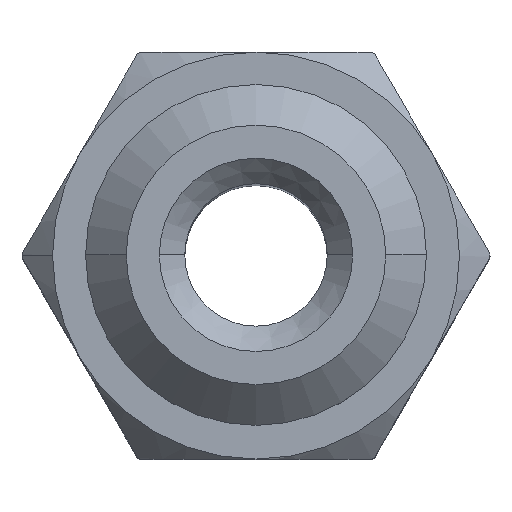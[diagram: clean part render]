
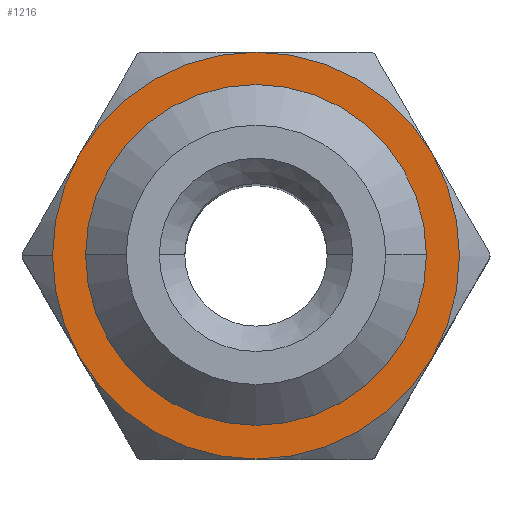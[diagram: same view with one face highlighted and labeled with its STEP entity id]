
A CAD part, top view. The second image highlights one B-rep face of the part: STEP entity #1216.
In plain terms, the highlighted planar face has unit normal (0, 0, 1).
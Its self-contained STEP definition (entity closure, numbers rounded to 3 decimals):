
#8 = DIRECTION ( 'NONE',  ( 0., 0., 1. ) ) ;
#108 = CIRCLE ( 'NONE', #1192, 4. ) ;
#117 = CARTESIAN_POINT ( 'NONE',  ( 0., 0., 14.5 ) ) ;
#205 = VERTEX_POINT ( 'NONE', #1846 ) ;
#271 = EDGE_CURVE ( 'NONE', #205, #1975, #108, .T. ) ;
#302 = CIRCLE ( 'NONE', #1107, 4. ) ;
#363 = AXIS2_PLACEMENT_3D ( 'NONE', #1623, #1672, #1680 ) ;
#377 = ORIENTED_EDGE ( 'NONE', *, *, #888, .T. ) ;
#392 = VERTEX_POINT ( 'NONE', #2509 ) ;
#501 = CIRCLE ( 'NONE', #1161, 2.75 ) ;
#554 = CARTESIAN_POINT ( 'NONE',  ( 0., -4., 14.5 ) ) ;
#582 = CARTESIAN_POINT ( 'NONE',  ( 2.25, 0., 14.5 ) ) ;
#639 = CARTESIAN_POINT ( 'NONE',  ( 0., 4., 14.5 ) ) ;
#700 = AXIS2_PLACEMENT_3D ( 'NONE', #1877, #869, #982 ) ;
#735 = CARTESIAN_POINT ( 'NONE',  ( 3.464, 2., 14.5 ) ) ;
#737 = VERTEX_POINT ( 'NONE', #554 ) ;
#740 = CARTESIAN_POINT ( 'NONE',  ( 0., 0., 14.5 ) ) ;
#746 = DIRECTION ( 'NONE',  ( -1., 0., 0. ) ) ;
#763 = EDGE_LOOP ( 'NONE', ( #1998, #2355 ) ) ;
#780 = DIRECTION ( 'NONE',  ( 0., 0., -1. ) ) ;
#840 = EDGE_CURVE ( 'NONE', #1975, #2303, #2473, .T. ) ;
#867 = CARTESIAN_POINT ( 'NONE',  ( -4., 0., 14.5 ) ) ;
#869 = DIRECTION ( 'NONE',  ( 0., 0., 1. ) ) ;
#888 = EDGE_CURVE ( 'NONE', #392, #1399, #2182, .T. ) ;
#902 = DIRECTION ( 'NONE',  ( -1., 0., 0. ) ) ;
#906 = CARTESIAN_POINT ( 'NONE',  ( -2.75, 0., 14.5 ) ) ;
#942 = CARTESIAN_POINT ( 'NONE',  ( 0., 0., 14.5 ) ) ;
#954 = DIRECTION ( 'NONE',  ( 0., 0., 1. ) ) ;
#982 = DIRECTION ( 'NONE',  ( -1., 0., 0. ) ) ;
#1015 = CARTESIAN_POINT ( 'NONE',  ( 0., 0., 14.5 ) ) ;
#1071 = AXIS2_PLACEMENT_3D ( 'NONE', #740, #2295, #2102 ) ;
#1085 = DIRECTION ( 'NONE',  ( 0., 0., 1. ) ) ;
#1099 = DIRECTION ( 'NONE',  ( -1., 0., 0. ) ) ;
#1107 = AXIS2_PLACEMENT_3D ( 'NONE', #942, #1085, #1099 ) ;
#1133 = CIRCLE ( 'NONE', #1071, 4. ) ;
#1161 = AXIS2_PLACEMENT_3D ( 'NONE', #1309, #1289, #746 ) ;
#1192 = AXIS2_PLACEMENT_3D ( 'NONE', #1015, #954, #902 ) ;
#1198 = CIRCLE ( 'NONE', #2427, 4. ) ;
#1205 = VERTEX_POINT ( 'NONE', #1355 ) ;
#1216 = ADVANCED_FACE ( 'NONE', ( #1362, #1339 ), #1298, .F. ) ;
#1244 = EDGE_CURVE ( 'NONE', #2303, #737, #1198, .T. ) ;
#1260 = EDGE_CURVE ( 'NONE', #1399, #2022, #1133, .T. ) ;
#1289 = DIRECTION ( 'NONE',  ( 0., 0., -1. ) ) ;
#1298 = PLANE ( 'NONE',  #2320 ) ;
#1303 = CARTESIAN_POINT ( 'NONE',  ( 0., 0., 14.5 ) ) ;
#1309 = CARTESIAN_POINT ( 'NONE',  ( 0., 0., 14.5 ) ) ;
#1339 = FACE_BOUND ( 'NONE', #763, .T. ) ;
#1353 = EDGE_CURVE ( 'NONE', #1977, #1205, #501, .T. ) ;
#1355 = CARTESIAN_POINT ( 'NONE',  ( 2.75, 0., 14.5 ) ) ;
#1362 = FACE_OUTER_BOUND ( 'NONE', #1950, .T. ) ;
#1399 = VERTEX_POINT ( 'NONE', #735 ) ;
#1410 = EDGE_CURVE ( 'NONE', #737, #392, #302, .T. ) ;
#1465 = DIRECTION ( 'NONE',  ( -1., 0., 0. ) ) ;
#1492 = AXIS2_PLACEMENT_3D ( 'NONE', #1303, #780, #1465 ) ;
#1507 = ORIENTED_EDGE ( 'NONE', *, *, #1260, .T. ) ;
#1623 = CARTESIAN_POINT ( 'NONE',  ( 0., 0., 14.5 ) ) ;
#1655 = ORIENTED_EDGE ( 'NONE', *, *, #1410, .T. ) ;
#1672 = DIRECTION ( 'NONE',  ( 0., 0., 1. ) ) ;
#1680 = DIRECTION ( 'NONE',  ( -1., 0., 0. ) ) ;
#1773 = CARTESIAN_POINT ( 'NONE',  ( -3.464, -2., 14.5 ) ) ;
#1846 = CARTESIAN_POINT ( 'NONE',  ( -3.464, 2., 14.5 ) ) ;
#1877 = CARTESIAN_POINT ( 'NONE',  ( 0., 0., 14.5 ) ) ;
#1936 = DIRECTION ( 'NONE',  ( -1., 0., 0. ) ) ;
#1950 = EDGE_LOOP ( 'NONE', ( #2506, #1655, #377, #1507, #2337, #1970, #2405 ) ) ;
#1964 = DIRECTION ( 'NONE',  ( 0., 0., 1. ) ) ;
#1970 = ORIENTED_EDGE ( 'NONE', *, *, #271, .T. ) ;
#1975 = VERTEX_POINT ( 'NONE', #867 ) ;
#1977 = VERTEX_POINT ( 'NONE', #906 ) ;
#1998 = ORIENTED_EDGE ( 'NONE', *, *, #1353, .T. ) ;
#2002 = CIRCLE ( 'NONE', #1492, 2.75 ) ;
#2022 = VERTEX_POINT ( 'NONE', #639 ) ;
#2026 = EDGE_CURVE ( 'NONE', #1205, #1977, #2002, .T. ) ;
#2076 = CARTESIAN_POINT ( 'NONE',  ( 0., 0., 14.5 ) ) ;
#2102 = DIRECTION ( 'NONE',  ( -1., 0., 0. ) ) ;
#2158 = AXIS2_PLACEMENT_3D ( 'NONE', #2076, #1964, #1936 ) ;
#2182 = CIRCLE ( 'NONE', #2158, 4. ) ;
#2295 = DIRECTION ( 'NONE',  ( 0., 0., 1. ) ) ;
#2303 = VERTEX_POINT ( 'NONE', #1773 ) ;
#2320 = AXIS2_PLACEMENT_3D ( 'NONE', #582, #2444, #2433 ) ;
#2337 = ORIENTED_EDGE ( 'NONE', *, *, #2424, .T. ) ;
#2355 = ORIENTED_EDGE ( 'NONE', *, *, #2026, .T. ) ;
#2405 = ORIENTED_EDGE ( 'NONE', *, *, #840, .T. ) ;
#2424 = EDGE_CURVE ( 'NONE', #2022, #205, #2535, .T. ) ;
#2427 = AXIS2_PLACEMENT_3D ( 'NONE', #117, #8, #2554 ) ;
#2433 = DIRECTION ( 'NONE',  ( -1., 0., 0. ) ) ;
#2444 = DIRECTION ( 'NONE',  ( 0., 0., -1. ) ) ;
#2473 = CIRCLE ( 'NONE', #700, 4. ) ;
#2506 = ORIENTED_EDGE ( 'NONE', *, *, #1244, .T. ) ;
#2509 = CARTESIAN_POINT ( 'NONE',  ( 3.464, -2., 14.5 ) ) ;
#2535 = CIRCLE ( 'NONE', #363, 4. ) ;
#2554 = DIRECTION ( 'NONE',  ( -1., 0., 0. ) ) ;
